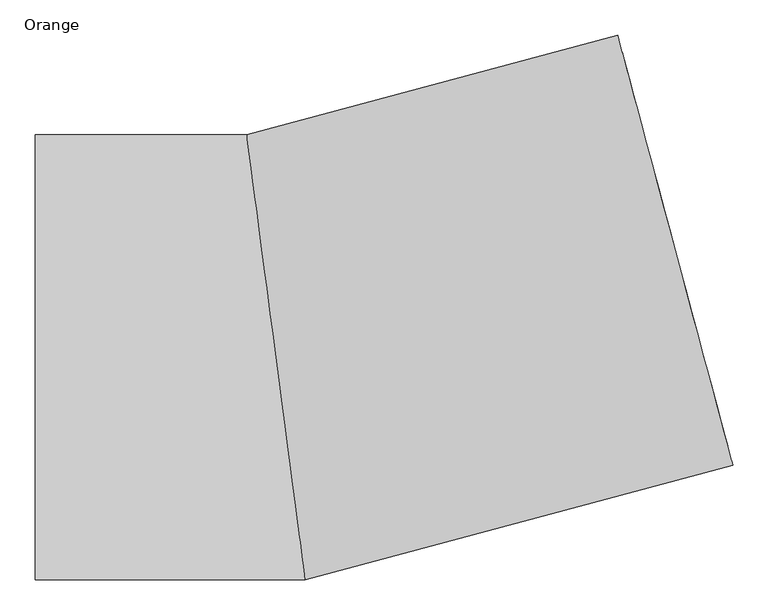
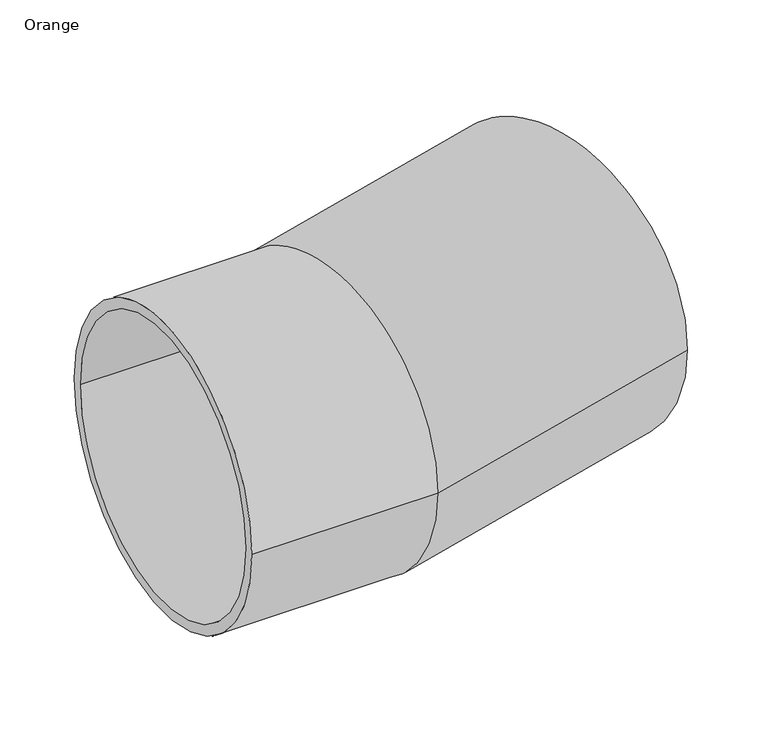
"""IFC4 building model written with IfcOpenShell, lengths in millimetres: pipe fitting geometry, AWADUKT PP SN10 SBend : Orange."""

from ifc_helpers import new_model, si_unit, frame, origin, place, context, project, spatial, polyline, circle_curve, ellipse_curve, source, transform, mapped, element, save
from ifc_brep_helpers import plane_surface, cylinder_surface, revolved_surface, advanced_brep


def orange_b2441087(model_context):
    return source(origin(), model_context, "Body", "AdvancedBrep", [
        advanced_brep(
        [(483.5386092, 455.6757767, 0.0), (646.5946076, -152.8574939, 0.0), (489.1291005, 434.8117788, 0.0), (641.0041162, -131.993496, 0.0), (-38.6268428, 293.4, 0.0), (38.6268428, -293.4, 0.0), (-41.4705367, 315.0, 0.0), (41.4705367, -315.0, 0.0), (-341.0, 315.0, 0.0), (-341.0, -315.0, 0.0), (-341.0, 293.4, 0.0), (-341.0, -293.4, 0.0)],
        [
            (0, 1, circle_curve(frame((565.0666084, 151.4091414, 0.0), z_axis=(0.9659258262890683, 0.25881904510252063, 0.0), x_axis=(0.25881904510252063, -0.9659258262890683, 0.0)), 315.0)),
            (1, 0, circle_curve(frame((565.0666084, 151.4091414, 0.0), z_axis=(0.9659258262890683, 0.25881904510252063, 0.0), x_axis=(0.25881904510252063, -0.9659258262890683, 0.0)), 315.0)),
            (2, 3, circle_curve(frame((565.0666084, 151.4091414, 0.0), z_axis=(-0.9659258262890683, -0.25881904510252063, 0.0), x_axis=(0.25881904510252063, -0.9659258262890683, 0.0)), 293.4)),
            (3, 2, circle_curve(frame((565.0666084, 151.4091414, 0.0), z_axis=(-0.9659258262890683, -0.25881904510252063, 0.0), x_axis=(0.25881904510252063, -0.9659258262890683, 0.0)), 293.4)),
            (2, 4),
            (4, 5, ellipse_curve(frame((0.0, 0.0, 0.0), z_axis=(-0.9914448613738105, -0.13052619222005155, 0.0), x_axis=(0.13052619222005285, -0.9914448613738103, 0.0)), 295.931737, 293.4)),
            (5, 3),
            (5, 4, ellipse_curve(frame((0.0, 0.0, 0.0), z_axis=(-0.9914448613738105, -0.13052619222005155, 0.0), x_axis=(0.13052619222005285, -0.9914448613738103, 0.0)), 295.931737, 293.4)),
            (0, 6),
            (6, 7, ellipse_curve(frame((0.0, 0.0, 0.0), z_axis=(0.9914448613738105, 0.13052619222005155, 0.0), x_axis=(-0.13052619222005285, 0.9914448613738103, 0.0)), 317.7181226, 315.0)),
            (7, 1),
            (7, 6, ellipse_curve(frame((0.0, 0.0, 0.0), z_axis=(0.9914448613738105, 0.13052619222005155, 0.0), x_axis=(-0.13052619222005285, 0.9914448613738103, 0.0)), 317.7181226, 315.0)),
            (8, 9, circle_curve(frame((-341.0, 0.0, 0.0), z_axis=(-1.0, 0.0, 0.0), x_axis=(0.0, -1.0, 0.0)), 315.0)),
            (9, 8, circle_curve(frame((-341.0, 0.0, 0.0), z_axis=(-1.0, 0.0, 0.0), x_axis=(0.0, -1.0, 0.0)), 315.0)),
            (10, 11, circle_curve(frame((-341.0, 0.0, 0.0), z_axis=(1.0, 0.0, 0.0), x_axis=(0.0, -1.0, 0.0)), 293.4)),
            (11, 10, circle_curve(frame((-341.0, 0.0, 0.0), z_axis=(1.0, 0.0, 0.0), x_axis=(0.0, -1.0, 0.0)), 293.4)),
            (4, 10),
            (11, 5),
            (6, 8),
            (9, 7),
        ],
        [
            plane_surface(frame((565.0666084, 151.4091414, 0.0), z_axis=(0.9659258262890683, 0.25881904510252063, 0.0), x_axis=(0.0, 0.0, 1.0))),
            revolved_surface(polyline([(38.626842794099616, -293.3999999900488, 0.0), (641.0041162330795, -131.99349603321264, 0.0)]), (565.0666084, 151.4091414, 0.0), (-0.9659258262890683, -0.25881904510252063, 0.0)),
            cylinder_surface(frame((565.0666084, 151.4091414, 0.0), z_axis=(0.9659258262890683, 0.25881904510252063, 0.0), x_axis=(0.25881904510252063, -0.9659258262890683, 0.0)), 315.0),
            plane_surface(frame((-341.0, 0.0, 0.0), z_axis=(-1.0, 0.0, 0.0), x_axis=(0.0, 0.0, 1.0))),
            revolved_surface(polyline([(-341.0, -293.4, 0.0), (38.6268428, -293.4, 0.0)]), (0.0, 0.0, 0.0), (-1.0, 0.0, 0.0)),
            cylinder_surface(frame((0.0, 0.0, 0.0), z_axis=(1.0, 0.0, 0.0), x_axis=(0.0, -1.0, 0.0)), 315.0),
        ],
        [
            (0, [[1, 2], [3, 4]]),
            (1, [[-3, 5, 6, 7]]),
            (1, [[-4, -7, 8, -5]]),
            (2, [[-1, 9, 10, 11]]),
            (2, [[-2, -11, 12, -9]]),
            (3, [[13, 14], [15, 16]]),
            (4, [[-6, 17, -16, 18]]),
            (4, [[-8, -18, -15, -17]]),
            (5, [[-10, 19, -14, 20]]),
            (5, [[-12, -20, -13, -19]]),
        ],
    ),
    ])


if __name__ == "__main__":
    model = new_model("IFC4")
    model_context = context("Model", 3, world=origin())
    ifc_project = project(units=[si_unit("LENGTHUNIT", "METRE", prefix="MILLI")], contexts=[model_context])
    site = spatial("IfcSite", under=ifc_project)
    building = spatial("IfcBuilding", under=site)
    placement = place(None, origin())
    orange_shape = orange_b2441087(model_context)
    element("IfcPipeFitting", 1, ObjectType="AWADUKT PP SN10 SBend : Orange", at=placement, inside=building, context=model_context, shape_type="MappedRepresentation", body=[
        mapped(orange_shape, transform((0.0, 0.0, 0.0), x_axis=(1.0, 0.0, 0.0), y_axis=(0.0, 1.0, 0.0), z_axis=(0.0, 0.0, 1.0))),
    ])
    save(model, "model.ifc")
